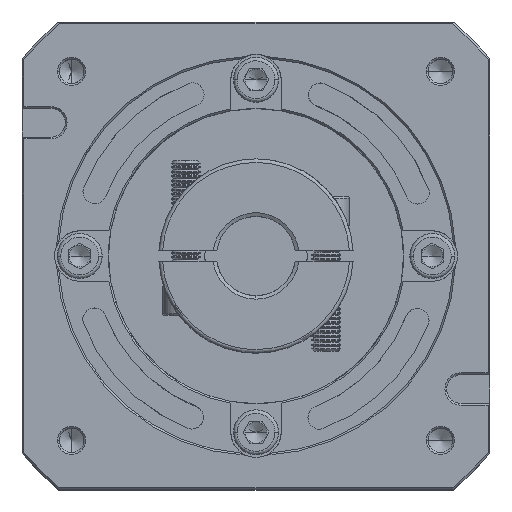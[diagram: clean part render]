
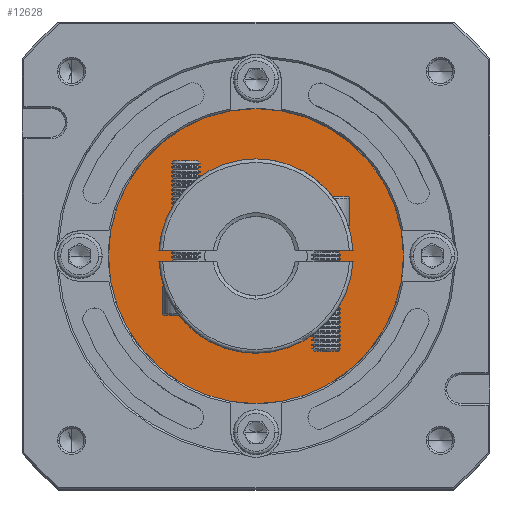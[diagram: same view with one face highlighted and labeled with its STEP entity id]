
A CAD part, top view. The second image highlights one B-rep face of the part: STEP entity #12628.
In plain terms, the highlighted planar face has unit normal (0, 0, 1).
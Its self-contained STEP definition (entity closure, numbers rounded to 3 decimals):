
#3555 = EDGE_CURVE ( 'NONE', #69682, #78279, #10623, .T. ) ;
#3762 = DIRECTION ( 'NONE',  ( 1., 0., 0. ) ) ;
#10623 = CIRCLE ( 'NONE', #104671, 41. ) ;
#12296 = AXIS2_PLACEMENT_3D ( 'NONE', #66837, #76024, #3762 ) ;
#12628 = ADVANCED_FACE ( 'NONE', ( #23480, #16877 ), #35900, .T. ) ;
#13064 = CARTESIAN_POINT ( 'NONE',  ( 19.547, 56.49, -19.194 ) ) ;
#16877 = FACE_BOUND ( 'NONE', #93301, .T. ) ;
#17865 = VERTEX_POINT ( 'NONE', #121524 ) ;
#23480 = FACE_OUTER_BOUND ( 'NONE', #62437, .T. ) ;
#27707 = EDGE_CURVE ( 'NONE', #52150, #17865, #42584, .T. ) ;
#28270 = CIRCLE ( 'NONE', #101870, 20. ) ;
#35298 = DIRECTION ( 'NONE',  ( 0., 0., 1. ) ) ;
#35900 = PLANE ( 'NONE',  #111187 ) ;
#37702 = DIRECTION ( 'NONE',  ( 1., 0., 0. ) ) ;
#39654 = DIRECTION ( 'NONE',  ( 1., 0., 0. ) ) ;
#41460 = AXIS2_PLACEMENT_3D ( 'NONE', #60428, #93121, #71397 ) ;
#42052 = ORIENTED_EDGE ( 'NONE', *, *, #27707, .T. ) ;
#42584 = CIRCLE ( 'NONE', #41460, 20. ) ;
#44446 = CARTESIAN_POINT ( 'NONE',  ( 60.547, 56.49, -19.194 ) ) ;
#47242 = ORIENTED_EDGE ( 'NONE', *, *, #48384, .T. ) ;
#48384 = EDGE_CURVE ( 'NONE', #78279, #69682, #115528, .T. ) ;
#52150 = VERTEX_POINT ( 'NONE', #91609 ) ;
#60428 = CARTESIAN_POINT ( 'NONE',  ( 60.547, 56.49, -19.194 ) ) ;
#62437 = EDGE_LOOP ( 'NONE', ( #47242, #107549 ) ) ;
#66837 = CARTESIAN_POINT ( 'NONE',  ( 60.547, 56.49, -19.194 ) ) ;
#67001 = DIRECTION ( 'NONE',  ( 1., 0., 0. ) ) ;
#69682 = VERTEX_POINT ( 'NONE', #13064 ) ;
#71397 = DIRECTION ( 'NONE',  ( 1., 0., 0. ) ) ;
#74315 = ORIENTED_EDGE ( 'NONE', *, *, #108351, .T. ) ;
#76024 = DIRECTION ( 'NONE',  ( 0., 0., 1. ) ) ;
#78150 = CARTESIAN_POINT ( 'NONE',  ( 60.547, 56.49, -19.194 ) ) ;
#78279 = VERTEX_POINT ( 'NONE', #135721 ) ;
#91609 = CARTESIAN_POINT ( 'NONE',  ( 80.547, 56.49, -19.194 ) ) ;
#93121 = DIRECTION ( 'NONE',  ( 0., 0., -1. ) ) ;
#93301 = EDGE_LOOP ( 'NONE', ( #42052, #74315 ) ) ;
#99448 = DIRECTION ( 'NONE',  ( 0., 0., 1. ) ) ;
#101870 = AXIS2_PLACEMENT_3D ( 'NONE', #102745, #135486, #39654 ) ;
#102745 = CARTESIAN_POINT ( 'NONE',  ( 60.547, 56.49, -19.194 ) ) ;
#104671 = AXIS2_PLACEMENT_3D ( 'NONE', #44446, #35298, #67001 ) ;
#107549 = ORIENTED_EDGE ( 'NONE', *, *, #3555, .T. ) ;
#108351 = EDGE_CURVE ( 'NONE', #17865, #52150, #28270, .T. ) ;
#111187 = AXIS2_PLACEMENT_3D ( 'NONE', #78150, #99448, #37702 ) ;
#115528 = CIRCLE ( 'NONE', #12296, 41. ) ;
#121524 = CARTESIAN_POINT ( 'NONE',  ( 40.547, 56.49, -19.194 ) ) ;
#135486 = DIRECTION ( 'NONE',  ( 0., 0., -1. ) ) ;
#135721 = CARTESIAN_POINT ( 'NONE',  ( 101.547, 56.49, -19.194 ) ) ;
